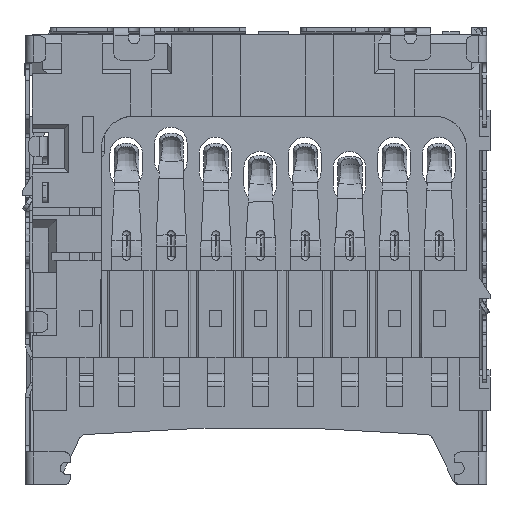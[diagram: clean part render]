
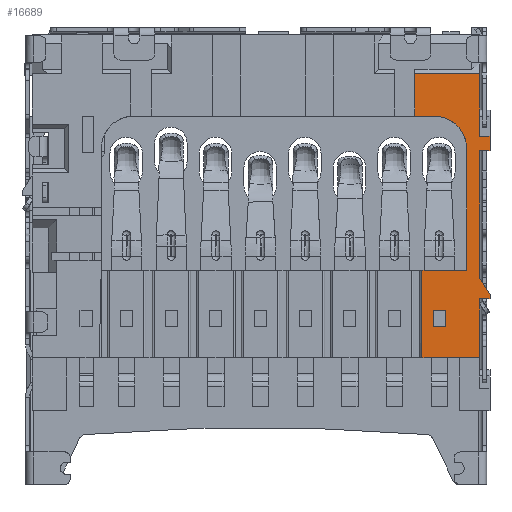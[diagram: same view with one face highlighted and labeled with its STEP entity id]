
A CAD part, front view. The second image highlights one B-rep face of the part: STEP entity #16689.
In plain terms, the highlighted planar face has unit normal (0, 1, 0).
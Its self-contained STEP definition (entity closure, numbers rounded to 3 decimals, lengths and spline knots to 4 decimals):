
#16096=CARTESIAN_POINT('Vertex',(5.51,-1.3,10.12)) ;
#16099=CARTESIAN_POINT('Line Origine',(4.7088,-1.3,10.12)) ;
#16103=CARTESIAN_POINT('Vertex',(3.9075,-1.3,10.12)) ;
#16504=CARTESIAN_POINT('Axis2P3D Location',(5.7971,-1.3,10.26)) ;
#16509=CARTESIAN_POINT('Line Origine',(5.26,-1.3,3.12)) ;
#16513=CARTESIAN_POINT('Vertex',(5.51,-1.3,3.12)) ;
#16515=CARTESIAN_POINT('Vertex',(5.01,-1.3,3.12)) ;
#16518=CARTESIAN_POINT('Line Origine',(4.5475,-1.3,3.12)) ;
#16522=CARTESIAN_POINT('Vertex',(4.085,-1.3,3.12)) ;
#16525=CARTESIAN_POINT('Line Origine',(4.085,-1.3,4.195)) ;
#16529=CARTESIAN_POINT('Vertex',(4.085,-1.3,5.27)) ;
#16532=CARTESIAN_POINT('Line Origine',(4.635,-1.3,5.27)) ;
#16536=CARTESIAN_POINT('Vertex',(5.185,-1.3,5.27)) ;
#16539=CARTESIAN_POINT('Line Origine',(5.185,-1.3,6.77)) ;
#16543=CARTESIAN_POINT('Vertex',(5.185,-1.3,8.27)) ;
#16547=CARTESIAN_POINT('Control Point',(5.185,-1.3,8.27)) ;
#16548=CARTESIAN_POINT('Control Point',(5.185,-1.3,8.3576)) ;
#16549=CARTESIAN_POINT('Control Point',(5.173,-1.3,8.4453)) ;
#16550=CARTESIAN_POINT('Control Point',(5.149,-1.3,8.5307)) ;
#16551=CARTESIAN_POINT('Control Point',(5.0782,-1.3,8.6928)) ;
#16552=CARTESIAN_POINT('Control Point',(4.9665,-1.3,8.83)) ;
#16553=CARTESIAN_POINT('Control Point',(4.9015,-1.3,8.8904)) ;
#16554=CARTESIAN_POINT('Control Point',(4.7662,-1.3,8.9853)) ;
#16555=CARTESIAN_POINT('Control Point',(4.6117,-1.3,9.0429)) ;
#16556=CARTESIAN_POINT('Control Point',(4.5371,-1.3,9.061)) ;
#16557=CARTESIAN_POINT('Control Point',(4.4611,-1.3,9.07)) ;
#16558=CARTESIAN_POINT('Control Point',(4.385,-1.3,9.07)) ;
#16559=CARTESIAN_POINT('Vertex',(4.385,-1.3,9.07)) ;
#16562=CARTESIAN_POINT('Line Origine',(4.1463,-1.3,9.07)) ;
#16566=CARTESIAN_POINT('Vertex',(3.9075,-1.3,9.07)) ;
#16569=CARTESIAN_POINT('Line Origine',(3.9075,-1.3,9.595)) ;
#16574=CARTESIAN_POINT('Line Origine',(5.51,-1.3,9.345)) ;
#16578=CARTESIAN_POINT('Vertex',(5.51,-1.3,8.57)) ;
#16581=CARTESIAN_POINT('Line Origine',(5.635,-1.3,8.57)) ;
#16585=CARTESIAN_POINT('Vertex',(5.76,-1.3,8.57)) ;
#16588=CARTESIAN_POINT('Line Origine',(5.76,-1.3,8.395)) ;
#16592=CARTESIAN_POINT('Vertex',(5.76,-1.3,8.22)) ;
#16595=CARTESIAN_POINT('Line Origine',(5.635,-1.3,8.22)) ;
#16599=CARTESIAN_POINT('Vertex',(5.51,-1.3,8.22)) ;
#16602=CARTESIAN_POINT('Line Origine',(5.51,-1.3,6.645)) ;
#16606=CARTESIAN_POINT('Vertex',(5.51,-1.3,5.07)) ;
#16609=CARTESIAN_POINT('Line Origine',(5.635,-1.3,4.87)) ;
#16613=CARTESIAN_POINT('Vertex',(5.76,-1.3,4.67)) ;
#16616=CARTESIAN_POINT('Line Origine',(5.76,-1.3,4.62)) ;
#16620=CARTESIAN_POINT('Vertex',(5.76,-1.3,4.57)) ;
#16623=CARTESIAN_POINT('Line Origine',(5.635,-1.3,4.57)) ;
#16627=CARTESIAN_POINT('Vertex',(5.51,-1.3,4.57)) ;
#16630=CARTESIAN_POINT('Line Origine',(5.51,-1.3,3.845)) ;
#16655=CARTESIAN_POINT('Line Origine',(4.6575,-1.3,4.095)) ;
#16659=CARTESIAN_POINT('Vertex',(4.6575,-1.3,4.295)) ;
#16661=CARTESIAN_POINT('Vertex',(4.6575,-1.3,3.895)) ;
#16664=CARTESIAN_POINT('Line Origine',(4.5075,-1.3,4.295)) ;
#16668=CARTESIAN_POINT('Vertex',(4.3575,-1.3,4.295)) ;
#16671=CARTESIAN_POINT('Line Origine',(4.3575,-1.3,4.095)) ;
#16675=CARTESIAN_POINT('Vertex',(4.3575,-1.3,3.895)) ;
#16678=CARTESIAN_POINT('Line Origine',(4.5075,-1.3,3.895)) ;
#16100=DIRECTION('Vector Direction',(1.,0.,0.)) ;
#16505=DIRECTION('Axis2P3D Direction',(0.,-1.,0.)) ;
#16506=DIRECTION('Axis2P3D XDirection',(-1.,0.,0.)) ;
#16510=DIRECTION('Vector Direction',(-1.,0.,0.)) ;
#16519=DIRECTION('Vector Direction',(-1.,0.,0.)) ;
#16526=DIRECTION('Vector Direction',(0.,0.,1.)) ;
#16533=DIRECTION('Vector Direction',(1.,0.,0.)) ;
#16540=DIRECTION('Vector Direction',(0.,0.,1.)) ;
#16563=DIRECTION('Vector Direction',(-1.,0.,0.)) ;
#16570=DIRECTION('Vector Direction',(0.,0.,1.)) ;
#16575=DIRECTION('Vector Direction',(0.,0.,-1.)) ;
#16582=DIRECTION('Vector Direction',(1.,0.,0.)) ;
#16589=DIRECTION('Vector Direction',(0.,0.,-1.)) ;
#16596=DIRECTION('Vector Direction',(-1.,0.,0.)) ;
#16603=DIRECTION('Vector Direction',(0.,0.,-1.)) ;
#16610=DIRECTION('Vector Direction',(0.53,0.,-0.848)) ;
#16617=DIRECTION('Vector Direction',(0.,0.,-1.)) ;
#16624=DIRECTION('Vector Direction',(-1.,0.,0.)) ;
#16631=DIRECTION('Vector Direction',(0.,0.,-1.)) ;
#16656=DIRECTION('Vector Direction',(0.,0.,1.)) ;
#16665=DIRECTION('Vector Direction',(-1.,0.,0.)) ;
#16672=DIRECTION('Vector Direction',(0.,0.,-1.)) ;
#16679=DIRECTION('Vector Direction',(1.,0.,0.)) ;
#16507=AXIS2_PLACEMENT_3D('Plane Axis2P3D',#16504,#16505,#16506) ;
#16636=ORIENTED_EDGE('',*,*,#16517,.T.) ;
#16637=ORIENTED_EDGE('',*,*,#16524,.T.) ;
#16638=ORIENTED_EDGE('',*,*,#16531,.T.) ;
#16639=ORIENTED_EDGE('',*,*,#16538,.T.) ;
#16640=ORIENTED_EDGE('',*,*,#16545,.T.) ;
#16641=ORIENTED_EDGE('',*,*,#16561,.F.) ;
#16642=ORIENTED_EDGE('',*,*,#16568,.T.) ;
#16643=ORIENTED_EDGE('',*,*,#16573,.T.) ;
#16644=ORIENTED_EDGE('',*,*,#16105,.T.) ;
#16645=ORIENTED_EDGE('',*,*,#16580,.F.) ;
#16646=ORIENTED_EDGE('',*,*,#16587,.F.) ;
#16647=ORIENTED_EDGE('',*,*,#16594,.F.) ;
#16648=ORIENTED_EDGE('',*,*,#16601,.T.) ;
#16649=ORIENTED_EDGE('',*,*,#16608,.F.) ;
#16650=ORIENTED_EDGE('',*,*,#16615,.F.) ;
#16651=ORIENTED_EDGE('',*,*,#16622,.F.) ;
#16652=ORIENTED_EDGE('',*,*,#16629,.F.) ;
#16653=ORIENTED_EDGE('',*,*,#16634,.F.) ;
#16684=ORIENTED_EDGE('',*,*,#16663,.F.) ;
#16685=ORIENTED_EDGE('',*,*,#16670,.F.) ;
#16686=ORIENTED_EDGE('',*,*,#16677,.F.) ;
#16687=ORIENTED_EDGE('',*,*,#16682,.F.) ;
#16688=FACE_BOUND('',#16683,.T.) ;
#16101=VECTOR('Line Direction',#16100,1.) ;
#16511=VECTOR('Line Direction',#16510,1.) ;
#16520=VECTOR('Line Direction',#16519,1.) ;
#16527=VECTOR('Line Direction',#16526,1.) ;
#16534=VECTOR('Line Direction',#16533,1.) ;
#16541=VECTOR('Line Direction',#16540,1.) ;
#16564=VECTOR('Line Direction',#16563,1.) ;
#16571=VECTOR('Line Direction',#16570,1.) ;
#16576=VECTOR('Line Direction',#16575,1.) ;
#16583=VECTOR('Line Direction',#16582,1.) ;
#16590=VECTOR('Line Direction',#16589,1.) ;
#16597=VECTOR('Line Direction',#16596,1.) ;
#16604=VECTOR('Line Direction',#16603,1.) ;
#16611=VECTOR('Line Direction',#16610,1.) ;
#16618=VECTOR('Line Direction',#16617,1.) ;
#16625=VECTOR('Line Direction',#16624,1.) ;
#16632=VECTOR('Line Direction',#16631,1.) ;
#16657=VECTOR('Line Direction',#16656,1.) ;
#16666=VECTOR('Line Direction',#16665,1.) ;
#16673=VECTOR('Line Direction',#16672,1.) ;
#16680=VECTOR('Line Direction',#16679,1.) ;
#16689=ADVANCED_FACE('',(#16654,#16688),#16508,.F.) ;
#16546=B_SPLINE_CURVE_WITH_KNOTS('',5,(#16547,#16548,#16549,#16550,#16551,#16552,#16553,#16554,#16555,#16556,#16557,#16558),.UNSPECIFIED.,.F.,.U.,(6,3,3,6),(0.,0.6197,1.2393,1.7771),.UNSPECIFIED.) ;
#16105=EDGE_CURVE('',#16104,#16097,#16102,.T.) ;
#16517=EDGE_CURVE('',#16514,#16516,#16512,.T.) ;
#16524=EDGE_CURVE('',#16516,#16523,#16521,.T.) ;
#16531=EDGE_CURVE('',#16523,#16530,#16528,.T.) ;
#16538=EDGE_CURVE('',#16530,#16537,#16535,.T.) ;
#16545=EDGE_CURVE('',#16537,#16544,#16542,.T.) ;
#16561=EDGE_CURVE('',#16560,#16544,#16546,.F.) ;
#16568=EDGE_CURVE('',#16560,#16567,#16565,.T.) ;
#16573=EDGE_CURVE('',#16567,#16104,#16572,.T.) ;
#16580=EDGE_CURVE('',#16579,#16097,#16577,.F.) ;
#16587=EDGE_CURVE('',#16586,#16579,#16584,.F.) ;
#16594=EDGE_CURVE('',#16593,#16586,#16591,.F.) ;
#16601=EDGE_CURVE('',#16593,#16600,#16598,.T.) ;
#16608=EDGE_CURVE('',#16607,#16600,#16605,.F.) ;
#16615=EDGE_CURVE('',#16614,#16607,#16612,.F.) ;
#16622=EDGE_CURVE('',#16621,#16614,#16619,.F.) ;
#16629=EDGE_CURVE('',#16628,#16621,#16626,.F.) ;
#16634=EDGE_CURVE('',#16514,#16628,#16633,.F.) ;
#16663=EDGE_CURVE('',#16660,#16662,#16658,.F.) ;
#16670=EDGE_CURVE('',#16669,#16660,#16667,.F.) ;
#16677=EDGE_CURVE('',#16676,#16669,#16674,.F.) ;
#16682=EDGE_CURVE('',#16662,#16676,#16681,.F.) ;
#16635=EDGE_LOOP('',(#16636,#16637,#16638,#16639,#16640,#16641,#16642,#16643,#16644,#16645,#16646,#16647,#16648,#16649,#16650,#16651,#16652,#16653)) ;
#16683=EDGE_LOOP('',(#16684,#16685,#16686,#16687)) ;
#16654=FACE_OUTER_BOUND('',#16635,.T.) ;
#16102=LINE('Line',#16099,#16101) ;
#16512=LINE('Line',#16509,#16511) ;
#16521=LINE('Line',#16518,#16520) ;
#16528=LINE('Line',#16525,#16527) ;
#16535=LINE('Line',#16532,#16534) ;
#16542=LINE('Line',#16539,#16541) ;
#16565=LINE('Line',#16562,#16564) ;
#16572=LINE('Line',#16569,#16571) ;
#16577=LINE('Line',#16574,#16576) ;
#16584=LINE('Line',#16581,#16583) ;
#16591=LINE('Line',#16588,#16590) ;
#16598=LINE('Line',#16595,#16597) ;
#16605=LINE('Line',#16602,#16604) ;
#16612=LINE('Line',#16609,#16611) ;
#16619=LINE('Line',#16616,#16618) ;
#16626=LINE('Line',#16623,#16625) ;
#16633=LINE('Line',#16630,#16632) ;
#16658=LINE('Line',#16655,#16657) ;
#16667=LINE('Line',#16664,#16666) ;
#16674=LINE('Line',#16671,#16673) ;
#16681=LINE('Line',#16678,#16680) ;
#16508=PLANE('Plane',#16507) ;
#16097=VERTEX_POINT('',#16096) ;
#16104=VERTEX_POINT('',#16103) ;
#16514=VERTEX_POINT('',#16513) ;
#16516=VERTEX_POINT('',#16515) ;
#16523=VERTEX_POINT('',#16522) ;
#16530=VERTEX_POINT('',#16529) ;
#16537=VERTEX_POINT('',#16536) ;
#16544=VERTEX_POINT('',#16543) ;
#16560=VERTEX_POINT('',#16559) ;
#16567=VERTEX_POINT('',#16566) ;
#16579=VERTEX_POINT('',#16578) ;
#16586=VERTEX_POINT('',#16585) ;
#16593=VERTEX_POINT('',#16592) ;
#16600=VERTEX_POINT('',#16599) ;
#16607=VERTEX_POINT('',#16606) ;
#16614=VERTEX_POINT('',#16613) ;
#16621=VERTEX_POINT('',#16620) ;
#16628=VERTEX_POINT('',#16627) ;
#16660=VERTEX_POINT('',#16659) ;
#16662=VERTEX_POINT('',#16661) ;
#16669=VERTEX_POINT('',#16668) ;
#16676=VERTEX_POINT('',#16675) ;
